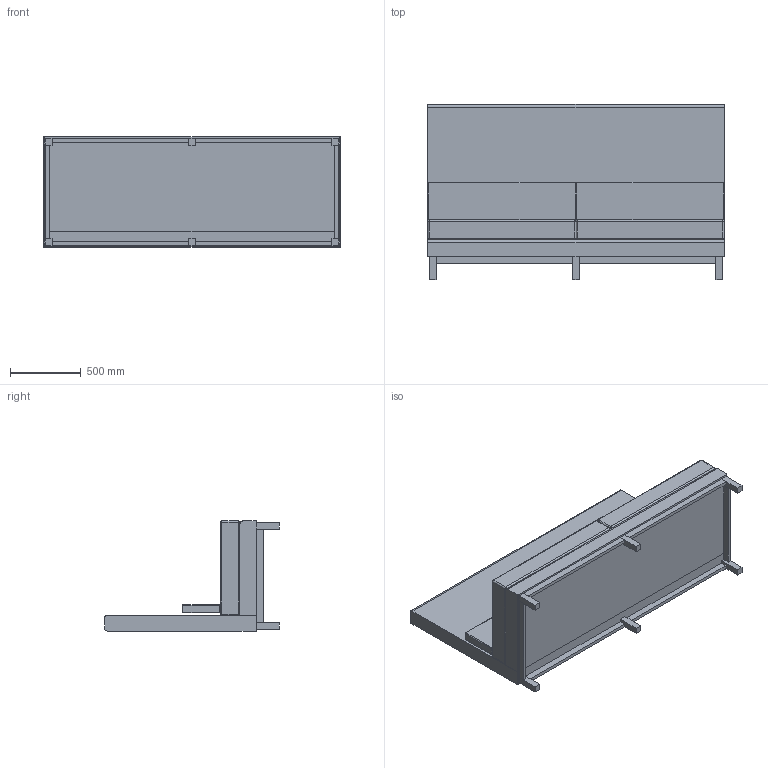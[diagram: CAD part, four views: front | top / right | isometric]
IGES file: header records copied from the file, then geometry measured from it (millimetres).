
Start section: SolidWorks IGES file using analytic representation for surfaces
Global section: file name: P:\3D CAD BLOCKS\ARTHUR CITYSCAPE\HB Plain Large Armless\IGS\ART-HB-PLAIN-LARGE-ART-CITY-ARMLESS.IGS; native system: SolidWorks 2012; preprocessor: SolidWorks 2012; author: tom; date: 160523.091619; units: millimetre
Bounding box: 2100 x 1240 x 780 mm (x, y, z)
Surface area: 14718970.7 mm2 (no closed solid volume)
Topology: 0 solids, 0 shells, 196 faces, 904 edges, 892 vertices
Faces by surface type: bspline 108, revolution 88
